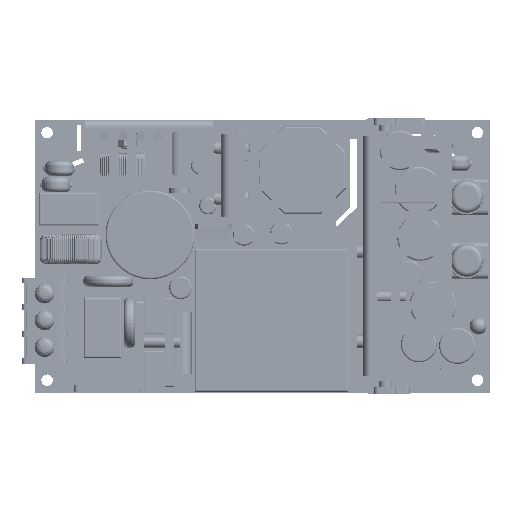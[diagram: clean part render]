
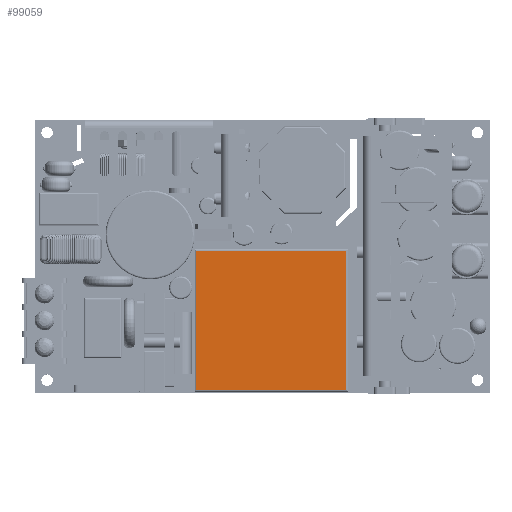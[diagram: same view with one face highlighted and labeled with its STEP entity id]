
A CAD part, top view. The second image highlights one B-rep face of the part: STEP entity #99059.
In plain terms, the highlighted planar face has unit normal (0, 0, 1).
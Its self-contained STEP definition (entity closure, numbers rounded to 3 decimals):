
#16790=FACE_OUTER_BOUND($,#24113,.T.);
#24113=EDGE_LOOP($,(#61925,#61926,#61927,#61928));
#31865=LINE($,#155847,#36135);
#31867=LINE($,#155855,#36137);
#31869=LINE($,#155861,#36139);
#31872=LINE($,#155867,#36142);
#36135=VECTOR($,#121795,38.8);
#36137=VECTOR($,#121803,41.846);
#36139=VECTOR($,#121809,38.8);
#36142=VECTOR($,#121816,41.846);
#40392=VERTEX_POINT($,#155845);
#40393=VERTEX_POINT($,#155846);
#40396=VERTEX_POINT($,#155854);
#40398=VERTEX_POINT($,#155860);
#47583=EDGE_CURVE($,#40392,#40393,#31865,.T.);
#47587=EDGE_CURVE($,#40393,#40396,#31867,.T.);
#47590=EDGE_CURVE($,#40396,#40398,#31869,.T.);
#47594=EDGE_CURVE($,#40398,#40392,#31872,.T.);
#61925=ORIENTED_EDGE($,*,*,#47583,.F.);
#61926=ORIENTED_EDGE($,*,*,#47594,.F.);
#61927=ORIENTED_EDGE($,*,*,#47590,.F.);
#61928=ORIENTED_EDGE($,*,*,#47587,.F.);
#92639=PLANE($,#106545);
#99059=ADVANCED_FACE($,(#16790),#92639,.T.);
#106545=AXIS2_PLACEMENT_3D($,#155882,#121828,#121829);
#121795=DIRECTION($,(0.,1.,0.));
#121803=DIRECTION($,(1.,0.,0.));
#121809=DIRECTION($,(0.,-1.,0.));
#121816=DIRECTION($,(-1.,0.,0.));
#121828=DIRECTION('center_axis',(0.,0.,1.));
#121829=DIRECTION('ref_axis',(1.,0.,0.));
#155845=CARTESIAN_POINT('',(45.107,0.823,22.6));
#155846=CARTESIAN_POINT('',(45.107,39.622,22.6));
#155847=CARTESIAN_POINT($,(45.107,30.172,22.6));
#155854=CARTESIAN_POINT('',(86.954,39.622,22.6));
#155855=CARTESIAN_POINT($,(79.742,39.622,22.6));
#155860=CARTESIAN_POINT('',(86.954,0.823,22.6));
#155861=CARTESIAN_POINT($,(86.954,10.273,22.6));
#155867=CARTESIAN_POINT($,(56.319,0.823,22.6));
#155882=CARTESIAN_POINT('Origin',(68.031,20.223,22.6));
